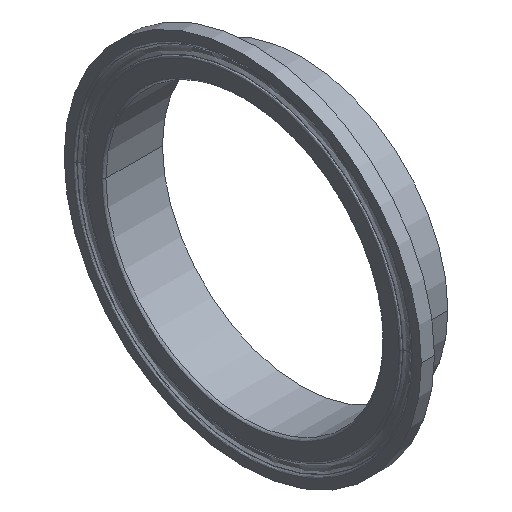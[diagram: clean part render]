
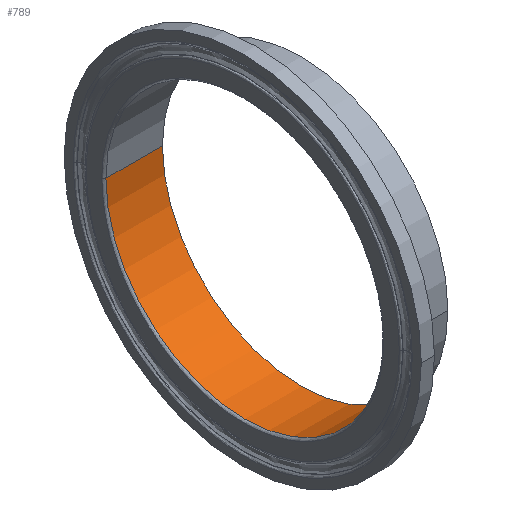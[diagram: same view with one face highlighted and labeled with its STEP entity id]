
A CAD part, isometric view. The second image highlights one B-rep face of the part: STEP entity #789.
In plain terms, the highlighted cylindrical face has radius 30.099 mm (diameter 60.198 mm), a partial arc.
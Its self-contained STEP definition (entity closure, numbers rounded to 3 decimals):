
#2 = ORIENTED_EDGE ( 'NONE', *, *, #319, .F. ) ;
#66 = DIRECTION ( 'NONE',  ( 1., 0., 0. ) ) ;
#164 = VECTOR ( 'NONE', #950, 1000. ) ;
#171 = AXIS2_PLACEMENT_3D ( 'NONE', #736, #751, #439 ) ;
#272 = VERTEX_POINT ( 'NONE', #1189 ) ;
#293 = CIRCLE ( 'NONE', #1400, 30.099 ) ;
#299 = ORIENTED_EDGE ( 'NONE', *, *, #1168, .F. ) ;
#317 = CARTESIAN_POINT ( 'NONE',  ( -12.243, 30.099, 0. ) ) ;
#319 = EDGE_CURVE ( 'NONE', #1200, #1037, #293, .T. ) ;
#381 = ORIENTED_EDGE ( 'NONE', *, *, #862, .F. ) ;
#383 = VECTOR ( 'NONE', #66, 1000. ) ;
#439 = DIRECTION ( 'NONE',  ( 0., 1., 0. ) ) ;
#470 = AXIS2_PLACEMENT_3D ( 'NONE', #830, #1214, #1191 ) ;
#543 = EDGE_CURVE ( 'NONE', #1200, #1231, #949, .T. ) ;
#699 = CARTESIAN_POINT ( 'NONE',  ( 0., -30.099, 0. ) ) ;
#702 = ORIENTED_EDGE ( 'NONE', *, *, #543, .T. ) ;
#736 = CARTESIAN_POINT ( 'NONE',  ( 45.786, 0., 0. ) ) ;
#751 = DIRECTION ( 'NONE',  ( 1., 0., 0. ) ) ;
#789 = ADVANCED_FACE ( 'NONE', ( #853 ), #864, .F. ) ;
#830 = CARTESIAN_POINT ( 'NONE',  ( 0., 0., 0. ) ) ;
#853 = FACE_OUTER_BOUND ( 'NONE', #1452, .T. ) ;
#862 = EDGE_CURVE ( 'NONE', #272, #1231, #1387, .T. ) ;
#864 = CYLINDRICAL_SURFACE ( 'NONE', #171, 30.099 ) ;
#949 = LINE ( 'NONE', #962, #164 ) ;
#950 = DIRECTION ( 'NONE',  ( 1., 0., 0. ) ) ;
#962 = CARTESIAN_POINT ( 'NONE',  ( 45.786, -30.099, 0. ) ) ;
#967 = DIRECTION ( 'NONE',  ( 0., 1., 0. ) ) ;
#978 = LINE ( 'NONE', #1085, #383 ) ;
#984 = DIRECTION ( 'NONE',  ( 1., 0., 0. ) ) ;
#1037 = VERTEX_POINT ( 'NONE', #317 ) ;
#1085 = CARTESIAN_POINT ( 'NONE',  ( 45.786, 30.099, 0. ) ) ;
#1138 = CARTESIAN_POINT ( 'NONE',  ( -12.243, -30.099, 0. ) ) ;
#1168 = EDGE_CURVE ( 'NONE', #1037, #272, #978, .T. ) ;
#1189 = CARTESIAN_POINT ( 'NONE',  ( 0., 30.099, 0. ) ) ;
#1191 = DIRECTION ( 'NONE',  ( 0., 1., 0. ) ) ;
#1200 = VERTEX_POINT ( 'NONE', #1138 ) ;
#1214 = DIRECTION ( 'NONE',  ( -1., 0., 0. ) ) ;
#1231 = VERTEX_POINT ( 'NONE', #699 ) ;
#1339 = CARTESIAN_POINT ( 'NONE',  ( -12.243, 0., 0. ) ) ;
#1387 = CIRCLE ( 'NONE', #470, 30.099 ) ;
#1400 = AXIS2_PLACEMENT_3D ( 'NONE', #1339, #984, #967 ) ;
#1452 = EDGE_LOOP ( 'NONE', ( #2, #702, #381, #299 ) ) ;
